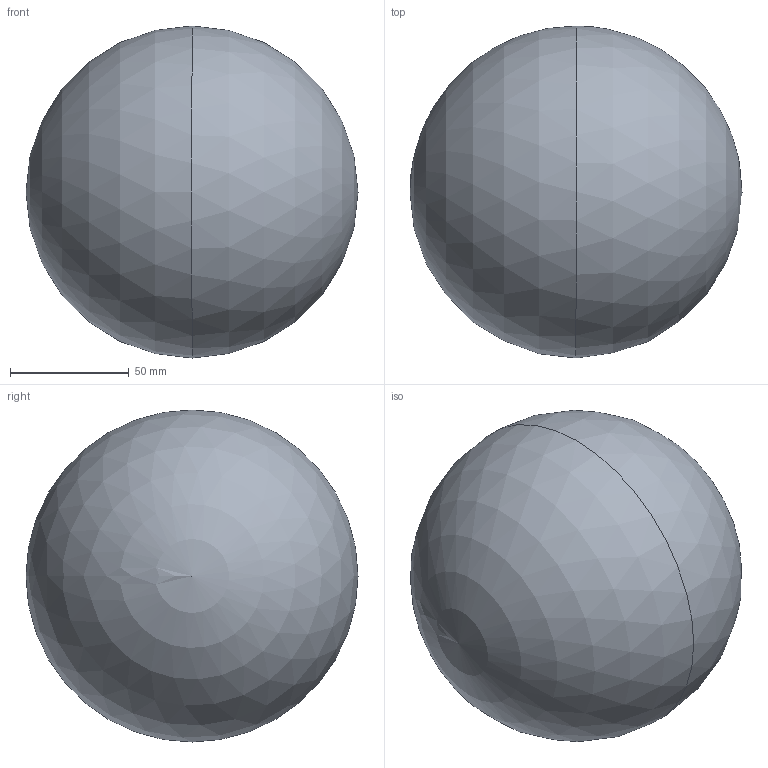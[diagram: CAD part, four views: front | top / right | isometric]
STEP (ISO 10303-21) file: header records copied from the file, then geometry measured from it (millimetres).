
FILE_DESCRIPTION (( 'STEP AP214' ), '1' );
FILE_NAME ('BOLA14.STEP', '2026-02-11T16:52:25', ( '' ), ( '' ), 'SwSTEP 2.0', 'SolidWorks 2023', '' );
FILE_SCHEMA (( 'AUTOMOTIVE_DESIGN' ));
Length unit declared in the file: millimetre
Products named in the file (1): BOLA14
Bounding box: 140 x 140 x 140 mm (x, y, z)
Volume: 1436755 mm3; surface area: 61575.2 mm2
Topology: 1 solids, 1 shells, 2 faces, 7 edges, 5 vertices
Faces by surface type: sphere 2
Entity records: 67 total; most frequent: DIRECTION 10, CARTESIAN_POINT 7, AXIS2_PLACEMENT_3D 5, ORIENTED_EDGE 4, APPLICATION_PROTOCOL_DEFINITION 2, FACE_OUTER_BOUND 2, ADVANCED_FACE 2, EDGE_CURVE 2
